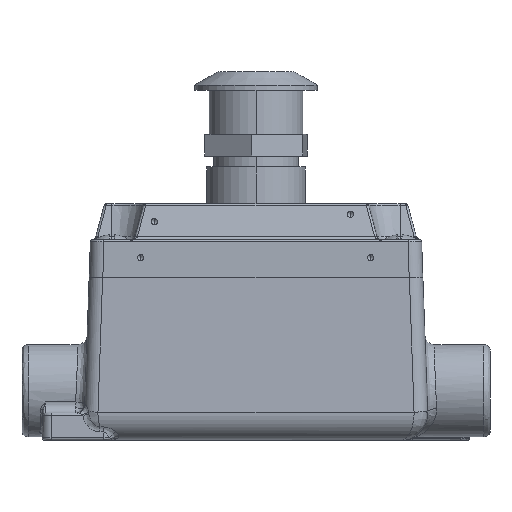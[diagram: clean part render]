
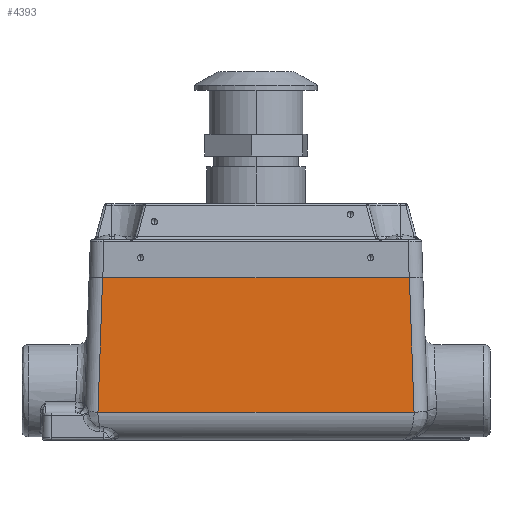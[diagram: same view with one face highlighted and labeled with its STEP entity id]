
A CAD part, top view. The second image highlights one B-rep face of the part: STEP entity #4393.
In plain terms, the highlighted planar face has unit normal (0, 0.035, 0.999) as drawn and (0, -0.999, 0.035) by its records, which use the part's own axes.
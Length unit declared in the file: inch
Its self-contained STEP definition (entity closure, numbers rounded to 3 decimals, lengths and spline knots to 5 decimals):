
#133 = CARTESIAN_POINT ( 'NONE',  ( 1.15625, -1.5672, -1.92441 ) ) ;
#538 = DIRECTION ( 'NONE',  ( 0., -0.999, 0.035 ) ) ;
#900 = CARTESIAN_POINT ( 'NONE',  ( 2.19232, -1.5672, -1.92441 ) ) ;
#1294 = VERTEX_POINT ( 'NONE', #900 ) ;
#1827 = DIRECTION ( 'NONE',  ( -1., 0., 0. ) ) ;
#2482 = CARTESIAN_POINT ( 'NONE',  ( -2.1273, -1.50218, -0.0625 ) ) ;
#4334 = LINE ( 'NONE', #8105, #9371 ) ;
#4393 = ADVANCED_FACE ( 'NONE', ( #19083 ), #15877, .T. ) ;
#4741 = DIRECTION ( 'NONE',  ( -0.035, 0.035, 0.999 ) ) ;
#4760 = ORIENTED_EDGE ( 'NONE', *, *, #22625, .T. ) ;
#5587 = VERTEX_POINT ( 'NONE', #21112 ) ;
#5943 = ORIENTED_EDGE ( 'NONE', *, *, #23359, .T. ) ;
#7616 = ORIENTED_EDGE ( 'NONE', *, *, #14581, .F. ) ;
#7968 = EDGE_CURVE ( 'NONE', #8133, #12863, #22410, .T. ) ;
#8105 = CARTESIAN_POINT ( 'NONE',  ( -2.1273, -1.50218, -0.0625 ) ) ;
#8133 = VERTEX_POINT ( 'NONE', #19835 ) ;
#9371 = VECTOR ( 'NONE', #15529, 39.37008 ) ;
#9906 = DIRECTION ( 'NONE',  ( 0., -0.035, -0.999 ) ) ;
#10916 = VECTOR ( 'NONE', #4741, 39.37008 ) ;
#11133 = LINE ( 'NONE', #20519, #10916 ) ;
#11977 = CARTESIAN_POINT ( 'NONE',  ( 2.3125, -1.5, 0. ) ) ;
#12863 = VERTEX_POINT ( 'NONE', #2482 ) ;
#13449 = AXIS2_PLACEMENT_3D ( 'NONE', #11977, #538, #9906 ) ;
#13538 = EDGE_LOOP ( 'NONE', ( #7616, #4760, #16414, #5943 ) ) ;
#14581 = EDGE_CURVE ( 'NONE', #1294, #5587, #22896, .T. ) ;
#15529 = DIRECTION ( 'NONE',  ( -0.035, -0.035, -0.999 ) ) ;
#15877 = PLANE ( 'NONE',  #13449 ) ;
#16414 = ORIENTED_EDGE ( 'NONE', *, *, #7968, .T. ) ;
#18655 = CARTESIAN_POINT ( 'NONE',  ( 2.3125, -1.50218, -0.0625 ) ) ;
#19083 = FACE_OUTER_BOUND ( 'NONE', #13538, .T. ) ;
#19356 = VECTOR ( 'NONE', #20477, 39.37008 ) ;
#19835 = CARTESIAN_POINT ( 'NONE',  ( 2.1273, -1.50218, -0.0625 ) ) ;
#20197 = VECTOR ( 'NONE', #1827, 39.37008 ) ;
#20477 = DIRECTION ( 'NONE',  ( -1., 0., 0. ) ) ;
#20519 = CARTESIAN_POINT ( 'NONE',  ( 2.19232, -1.5672, -1.92441 ) ) ;
#21112 = CARTESIAN_POINT ( 'NONE',  ( -2.19232, -1.5672, -1.92441 ) ) ;
#22410 = LINE ( 'NONE', #18655, #20197 ) ;
#22625 = EDGE_CURVE ( 'NONE', #1294, #8133, #11133, .T. ) ;
#22896 = LINE ( 'NONE', #133, #19356 ) ;
#23359 = EDGE_CURVE ( 'NONE', #12863, #5587, #4334, .T. ) ;
